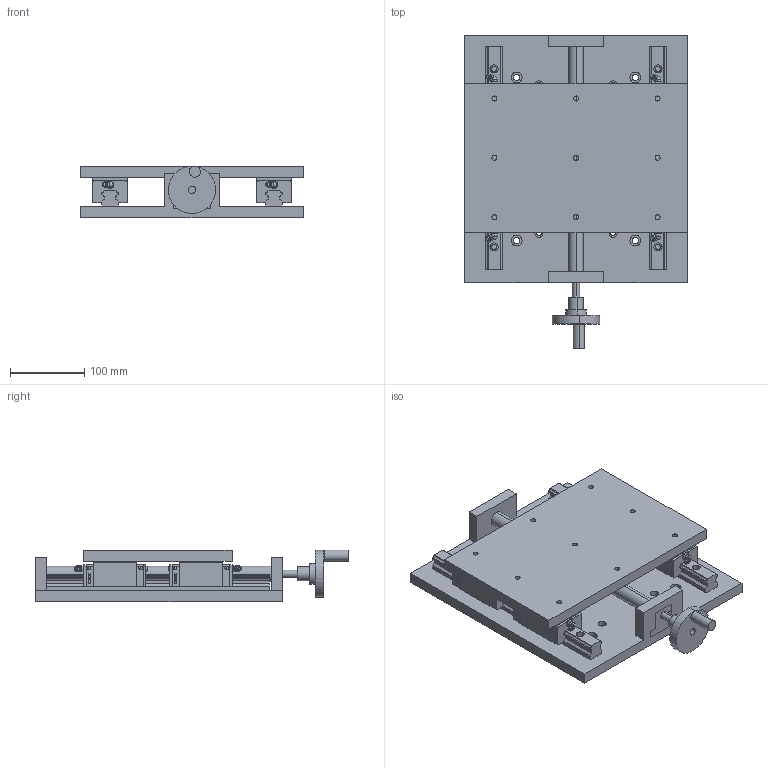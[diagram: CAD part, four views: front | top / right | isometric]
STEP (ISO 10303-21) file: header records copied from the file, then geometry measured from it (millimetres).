
FILE_DESCRIPTION (( 'STEP AP214' ), '1' );
FILE_NAME ('PT300-100.STEP', '2022-09-18T06:00:28', ( '' ), ( '' ), 'SwSTEP 2.0', 'SolidWorks 2017', '' );
FILE_SCHEMA (( 'AUTOMOTIVE_DESIGN' ));
Length unit declared in the file: millimetre
Products named in the file (12): HGH25C__X2_53F35C01_X0__temp; 34320001; HGH25C__X2_5DE65C01_X0__temp; 醱啣; 標踡輸; 標踡; M6H; 忒謫; 菁啣-100; PT300-100; HGH25CA2R300Z0C_GW202204023669; HGR25_temp-1
Assembly tree (14 placements, depth 3):
  PT300-100
    菁啣-100
    醱啣
    HGH25CA2R300Z0C_GW202204023669  x2
      HGR25_temp-1
      HGH25C__X2_53F35C01_X0__temp
      34320001
      M6H
      HGH25C__X2_5DE65C01_X0__temp
    標踡
      標踡輸
      忒謫
Bounding box: 300 x 422.1 x 70.06 mm (x, y, z)
Volume: 3303711 mm3; surface area: 594166.6 mm2
Topology: 35 solids, 39 shells, 2920 faces, 8175 edges, 5390 vertices
Faces by surface type: plane 1940, cylinder 762, bspline 138, cone 64, torus 16
Entity records: 63545 total; most frequent: CARTESIAN_POINT 9898, ORIENTED_EDGE 8134, DIRECTION 7601, EDGE_CURVE 4067, VECTOR 3017, LINE 3017, VERTEX_POINT 2697, AXIS2_PLACEMENT_3D 2292
